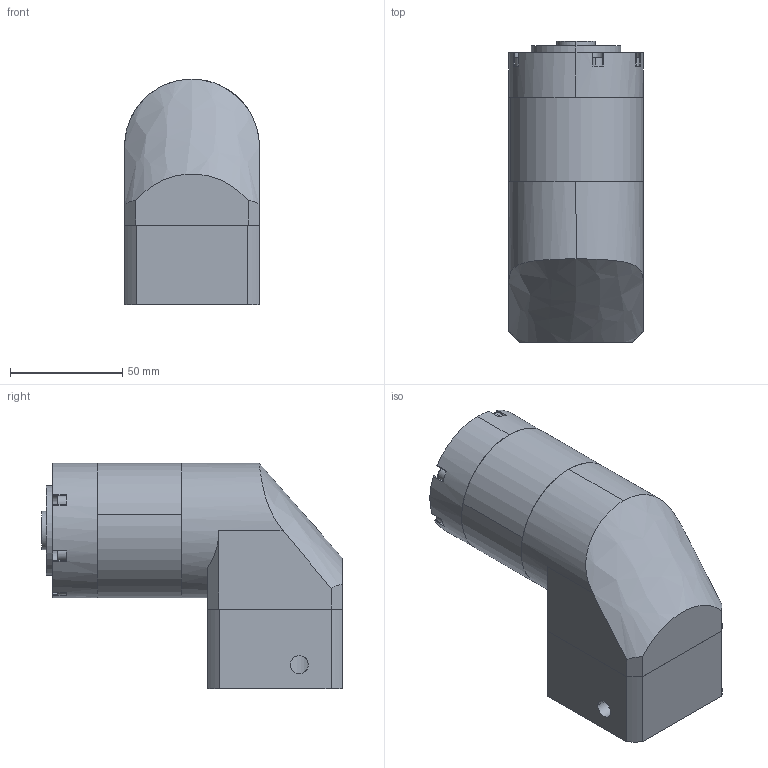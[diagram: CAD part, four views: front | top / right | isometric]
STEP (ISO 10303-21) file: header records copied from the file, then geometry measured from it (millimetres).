
FILE_DESCRIPTION (( 'STEP AP203' ), '1' );
FILE_NAME ('PVBF060-L2-14-50-70.STEP', '2023-07-11T02:31:15', ( 'Windows User' ), ( 'P R C' ), 'SwSTEP 2.0', 'SolidWorks 2016', '' );
FILE_SCHEMA (( 'CONFIG_CONTROL_DESIGN' ));
Length unit declared in the file: millimetre
Products named in the file (8): PVBF060-L2-14-50-70; B-PVBF60 奻屳唳; PVBF60-薊粣; 双列角接触球轴承5203_2; PVBF60-蟀諉啣; 囀鞠褒蹟佪-M5℅16; PVBF60-眊极_揤翉; B-PVBF60 內齿圈_二级内齿圈
Assembly tree (7 placements, depth 2):
  PVBF060-L2-14-50-70
    B-PVBF60 奻屳唳
    PVBF60-薊粣
    双列角接触球轴承5203_2
    PVBF60-蟀諉啣
    囀鞠褒蹟佪-M5℅16
    PVBF60-眊极_揤翉
    B-PVBF60 內齿圈_二级内齿圈
Bounding box: 60 x 134 x 100.5 mm (x, y, z)
Volume: 445535.4 mm3; surface area: 96879.4 mm2
Topology: 13 solids, 13 shells, 1222 faces, 3528 edges, 2322 vertices
Faces by surface type: plane 652, bspline 329, cylinder 203, cone 38
Entity records: 52260 total; most frequent: CARTESIAN_POINT 21179, ORIENTED_EDGE 6984, DIRECTION 5279, EDGE_CURVE 3492, VERTEX_POINT 2316, LINE 1953, VECTOR 1953, AXIS2_PLACEMENT_3D 1663
